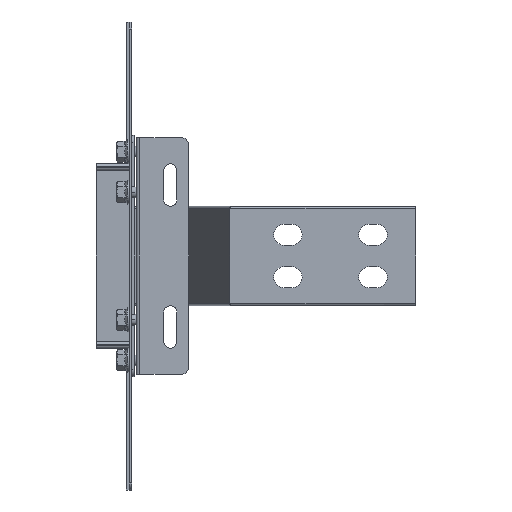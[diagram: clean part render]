
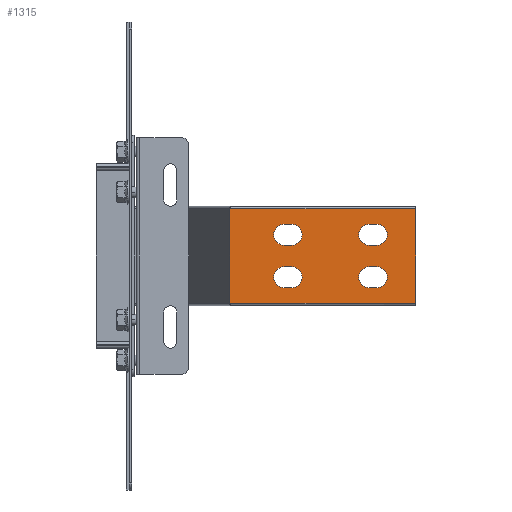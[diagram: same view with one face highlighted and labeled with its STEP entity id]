
A CAD part, front view. The second image highlights one B-rep face of the part: STEP entity #1315.
In plain terms, the highlighted planar face has unit normal (0, -1, 0).
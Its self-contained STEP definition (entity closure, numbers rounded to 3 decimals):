
#1143=AXIS2_PLACEMENT_3D('Plane Axis2P3D',#1140,#1141,#1142) ;
#1181=AXIS2_PLACEMENT_3D('Circle Axis2P3D',#1179,#1180,$) ;
#1197=AXIS2_PLACEMENT_3D('Circle Axis2P3D',#1195,#1196,$) ;
#1215=AXIS2_PLACEMENT_3D('Circle Axis2P3D',#1213,#1214,$) ;
#1231=AXIS2_PLACEMENT_3D('Circle Axis2P3D',#1229,#1230,$) ;
#1249=AXIS2_PLACEMENT_3D('Circle Axis2P3D',#1247,#1248,$) ;
#1265=AXIS2_PLACEMENT_3D('Circle Axis2P3D',#1263,#1264,$) ;
#1292=AXIS2_PLACEMENT_3D('Circle Axis2P3D',#1290,#1291,$) ;
#1306=AXIS2_PLACEMENT_3D('Circle Axis2P3D',#1304,#1305,$) ;
#1140=CARTESIAN_POINT('Axis2P3D Location',(200.,-151.65,-33.35)) ;
#1145=CARTESIAN_POINT('Line Origine',(134.45,-151.65,-33.35)) ;
#1149=CARTESIAN_POINT('Vertex',(200.,-151.65,-33.35)) ;
#1151=CARTESIAN_POINT('Vertex',(68.9,-151.65,-33.35)) ;
#1154=CARTESIAN_POINT('Line Origine',(200.,-151.65,0.)) ;
#1158=CARTESIAN_POINT('Vertex',(200.,-151.65,33.35)) ;
#1161=CARTESIAN_POINT('Line Origine',(134.45,-151.65,33.35)) ;
#1165=CARTESIAN_POINT('Vertex',(68.9,-151.65,33.35)) ;
#1168=CARTESIAN_POINT('Line Origine',(68.9,-151.65,0.)) ;
#1179=CARTESIAN_POINT('Axis2P3D Location',(112.5,-151.65,15.)) ;
#1183=CARTESIAN_POINT('Vertex',(112.5,-151.65,7.5)) ;
#1185=CARTESIAN_POINT('Vertex',(112.5,-151.65,22.5)) ;
#1188=CARTESIAN_POINT('Line Origine',(110.,-151.65,7.5)) ;
#1192=CARTESIAN_POINT('Vertex',(107.5,-151.65,7.5)) ;
#1195=CARTESIAN_POINT('Axis2P3D Location',(107.5,-151.65,15.)) ;
#1199=CARTESIAN_POINT('Vertex',(107.5,-151.65,22.5)) ;
#1202=CARTESIAN_POINT('Line Origine',(110.,-151.65,22.5)) ;
#1213=CARTESIAN_POINT('Axis2P3D Location',(172.5,-151.65,15.)) ;
#1217=CARTESIAN_POINT('Vertex',(172.5,-151.65,7.5)) ;
#1219=CARTESIAN_POINT('Vertex',(172.5,-151.65,22.5)) ;
#1222=CARTESIAN_POINT('Line Origine',(170.,-151.65,7.5)) ;
#1226=CARTESIAN_POINT('Vertex',(167.5,-151.65,7.5)) ;
#1229=CARTESIAN_POINT('Axis2P3D Location',(167.5,-151.65,15.)) ;
#1233=CARTESIAN_POINT('Vertex',(167.5,-151.65,22.5)) ;
#1236=CARTESIAN_POINT('Line Origine',(170.,-151.65,22.5)) ;
#1247=CARTESIAN_POINT('Axis2P3D Location',(107.5,-151.65,-15.)) ;
#1251=CARTESIAN_POINT('Vertex',(107.5,-151.65,-7.5)) ;
#1253=CARTESIAN_POINT('Vertex',(107.5,-151.65,-22.5)) ;
#1256=CARTESIAN_POINT('Line Origine',(110.,-151.65,-7.5)) ;
#1260=CARTESIAN_POINT('Vertex',(112.5,-151.65,-7.5)) ;
#1263=CARTESIAN_POINT('Axis2P3D Location',(112.5,-151.65,-15.)) ;
#1267=CARTESIAN_POINT('Vertex',(112.5,-151.65,-22.5)) ;
#1270=CARTESIAN_POINT('Line Origine',(110.,-151.65,-22.5)) ;
#1281=CARTESIAN_POINT('Line Origine',(170.,-151.65,-7.5)) ;
#1285=CARTESIAN_POINT('Vertex',(172.5,-151.65,-7.5)) ;
#1287=CARTESIAN_POINT('Vertex',(167.5,-151.65,-7.5)) ;
#1290=CARTESIAN_POINT('Axis2P3D Location',(172.5,-151.65,-15.)) ;
#1294=CARTESIAN_POINT('Vertex',(172.5,-151.65,-22.5)) ;
#1297=CARTESIAN_POINT('Line Origine',(170.,-151.65,-22.5)) ;
#1301=CARTESIAN_POINT('Vertex',(167.5,-151.65,-22.5)) ;
#1304=CARTESIAN_POINT('Axis2P3D Location',(167.5,-151.65,-15.)) ;
#1141=DIRECTION('Axis2P3D Direction',(0.,-1.,0.)) ;
#1142=DIRECTION('Axis2P3D XDirection',(0.,0.,1.)) ;
#1146=DIRECTION('Vector Direction',(-1.,0.,0.)) ;
#1155=DIRECTION('Vector Direction',(0.,0.,1.)) ;
#1162=DIRECTION('Vector Direction',(-1.,0.,0.)) ;
#1169=DIRECTION('Vector Direction',(0.,0.,1.)) ;
#1180=DIRECTION('Axis2P3D Direction',(0.,-1.,0.)) ;
#1189=DIRECTION('Vector Direction',(-1.,0.,0.)) ;
#1196=DIRECTION('Axis2P3D Direction',(0.,-1.,0.)) ;
#1203=DIRECTION('Vector Direction',(1.,0.,0.)) ;
#1214=DIRECTION('Axis2P3D Direction',(0.,-1.,0.)) ;
#1223=DIRECTION('Vector Direction',(1.,0.,0.)) ;
#1230=DIRECTION('Axis2P3D Direction',(0.,-1.,0.)) ;
#1237=DIRECTION('Vector Direction',(-1.,0.,0.)) ;
#1248=DIRECTION('Axis2P3D Direction',(0.,-1.,0.)) ;
#1257=DIRECTION('Vector Direction',(-1.,0.,0.)) ;
#1264=DIRECTION('Axis2P3D Direction',(0.,-1.,0.)) ;
#1271=DIRECTION('Vector Direction',(1.,0.,0.)) ;
#1282=DIRECTION('Vector Direction',(1.,0.,0.)) ;
#1291=DIRECTION('Axis2P3D Direction',(0.,-1.,0.)) ;
#1298=DIRECTION('Vector Direction',(-1.,0.,0.)) ;
#1305=DIRECTION('Axis2P3D Direction',(0.,-1.,0.)) ;
#1147=VECTOR('Line Direction',#1146,1.) ;
#1156=VECTOR('Line Direction',#1155,1.) ;
#1163=VECTOR('Line Direction',#1162,1.) ;
#1170=VECTOR('Line Direction',#1169,1.) ;
#1190=VECTOR('Line Direction',#1189,1.) ;
#1204=VECTOR('Line Direction',#1203,1.) ;
#1224=VECTOR('Line Direction',#1223,1.) ;
#1238=VECTOR('Line Direction',#1237,1.) ;
#1258=VECTOR('Line Direction',#1257,1.) ;
#1272=VECTOR('Line Direction',#1271,1.) ;
#1283=VECTOR('Line Direction',#1282,1.) ;
#1299=VECTOR('Line Direction',#1298,1.) ;
#1174=ORIENTED_EDGE('',*,*,#1153,.F.) ;
#1175=ORIENTED_EDGE('',*,*,#1160,.F.) ;
#1176=ORIENTED_EDGE('',*,*,#1167,.T.) ;
#1177=ORIENTED_EDGE('',*,*,#1172,.F.) ;
#1208=ORIENTED_EDGE('',*,*,#1187,.F.) ;
#1209=ORIENTED_EDGE('',*,*,#1194,.F.) ;
#1210=ORIENTED_EDGE('',*,*,#1201,.F.) ;
#1211=ORIENTED_EDGE('',*,*,#1206,.F.) ;
#1242=ORIENTED_EDGE('',*,*,#1221,.F.) ;
#1243=ORIENTED_EDGE('',*,*,#1228,.F.) ;
#1244=ORIENTED_EDGE('',*,*,#1235,.F.) ;
#1245=ORIENTED_EDGE('',*,*,#1240,.F.) ;
#1276=ORIENTED_EDGE('',*,*,#1255,.F.) ;
#1277=ORIENTED_EDGE('',*,*,#1262,.F.) ;
#1278=ORIENTED_EDGE('',*,*,#1269,.F.) ;
#1279=ORIENTED_EDGE('',*,*,#1274,.F.) ;
#1310=ORIENTED_EDGE('',*,*,#1289,.F.) ;
#1311=ORIENTED_EDGE('',*,*,#1296,.F.) ;
#1312=ORIENTED_EDGE('',*,*,#1303,.F.) ;
#1313=ORIENTED_EDGE('',*,*,#1308,.F.) ;
#1212=FACE_BOUND('',#1207,.T.) ;
#1246=FACE_BOUND('',#1241,.T.) ;
#1280=FACE_BOUND('',#1275,.T.) ;
#1314=FACE_BOUND('',#1309,.T.) ;
#1315=ADVANCED_FACE('N',(#1178,#1212,#1246,#1280,#1314),#1144,.T.) ;
#1182=CIRCLE('generated circle',#1181,7.5) ;
#1198=CIRCLE('generated circle',#1197,7.5) ;
#1216=CIRCLE('generated circle',#1215,7.5) ;
#1232=CIRCLE('generated circle',#1231,7.5) ;
#1250=CIRCLE('generated circle',#1249,7.5) ;
#1266=CIRCLE('generated circle',#1265,7.5) ;
#1293=CIRCLE('generated circle',#1292,7.5) ;
#1307=CIRCLE('generated circle',#1306,7.5) ;
#1153=EDGE_CURVE('',#1150,#1152,#1148,.T.) ;
#1160=EDGE_CURVE('',#1159,#1150,#1157,.F.) ;
#1167=EDGE_CURVE('',#1159,#1166,#1164,.T.) ;
#1172=EDGE_CURVE('',#1152,#1166,#1171,.T.) ;
#1187=EDGE_CURVE('',#1184,#1186,#1182,.T.) ;
#1194=EDGE_CURVE('',#1193,#1184,#1191,.F.) ;
#1201=EDGE_CURVE('',#1200,#1193,#1198,.T.) ;
#1206=EDGE_CURVE('',#1186,#1200,#1205,.F.) ;
#1221=EDGE_CURVE('',#1218,#1220,#1216,.T.) ;
#1228=EDGE_CURVE('',#1227,#1218,#1225,.T.) ;
#1235=EDGE_CURVE('',#1234,#1227,#1232,.T.) ;
#1240=EDGE_CURVE('',#1220,#1234,#1239,.T.) ;
#1255=EDGE_CURVE('',#1252,#1254,#1250,.T.) ;
#1262=EDGE_CURVE('',#1261,#1252,#1259,.T.) ;
#1269=EDGE_CURVE('',#1268,#1261,#1266,.T.) ;
#1274=EDGE_CURVE('',#1254,#1268,#1273,.T.) ;
#1289=EDGE_CURVE('',#1286,#1288,#1284,.F.) ;
#1296=EDGE_CURVE('',#1295,#1286,#1293,.T.) ;
#1303=EDGE_CURVE('',#1302,#1295,#1300,.F.) ;
#1308=EDGE_CURVE('',#1288,#1302,#1307,.T.) ;
#1173=EDGE_LOOP('',(#1174,#1175,#1176,#1177)) ;
#1207=EDGE_LOOP('',(#1208,#1209,#1210,#1211)) ;
#1241=EDGE_LOOP('',(#1242,#1243,#1244,#1245)) ;
#1275=EDGE_LOOP('',(#1276,#1277,#1278,#1279)) ;
#1309=EDGE_LOOP('',(#1310,#1311,#1312,#1313)) ;
#1178=FACE_OUTER_BOUND('',#1173,.T.) ;
#1148=LINE('Line',#1145,#1147) ;
#1157=LINE('Line',#1154,#1156) ;
#1164=LINE('Line',#1161,#1163) ;
#1171=LINE('Line',#1168,#1170) ;
#1191=LINE('Line',#1188,#1190) ;
#1205=LINE('Line',#1202,#1204) ;
#1225=LINE('Line',#1222,#1224) ;
#1239=LINE('Line',#1236,#1238) ;
#1259=LINE('Line',#1256,#1258) ;
#1273=LINE('Line',#1270,#1272) ;
#1284=LINE('Line',#1281,#1283) ;
#1300=LINE('Line',#1297,#1299) ;
#1144=PLANE('',#1143) ;
#1150=VERTEX_POINT('',#1149) ;
#1152=VERTEX_POINT('',#1151) ;
#1159=VERTEX_POINT('',#1158) ;
#1166=VERTEX_POINT('',#1165) ;
#1184=VERTEX_POINT('',#1183) ;
#1186=VERTEX_POINT('',#1185) ;
#1193=VERTEX_POINT('',#1192) ;
#1200=VERTEX_POINT('',#1199) ;
#1218=VERTEX_POINT('',#1217) ;
#1220=VERTEX_POINT('',#1219) ;
#1227=VERTEX_POINT('',#1226) ;
#1234=VERTEX_POINT('',#1233) ;
#1252=VERTEX_POINT('',#1251) ;
#1254=VERTEX_POINT('',#1253) ;
#1261=VERTEX_POINT('',#1260) ;
#1268=VERTEX_POINT('',#1267) ;
#1286=VERTEX_POINT('',#1285) ;
#1288=VERTEX_POINT('',#1287) ;
#1295=VERTEX_POINT('',#1294) ;
#1302=VERTEX_POINT('',#1301) ;
